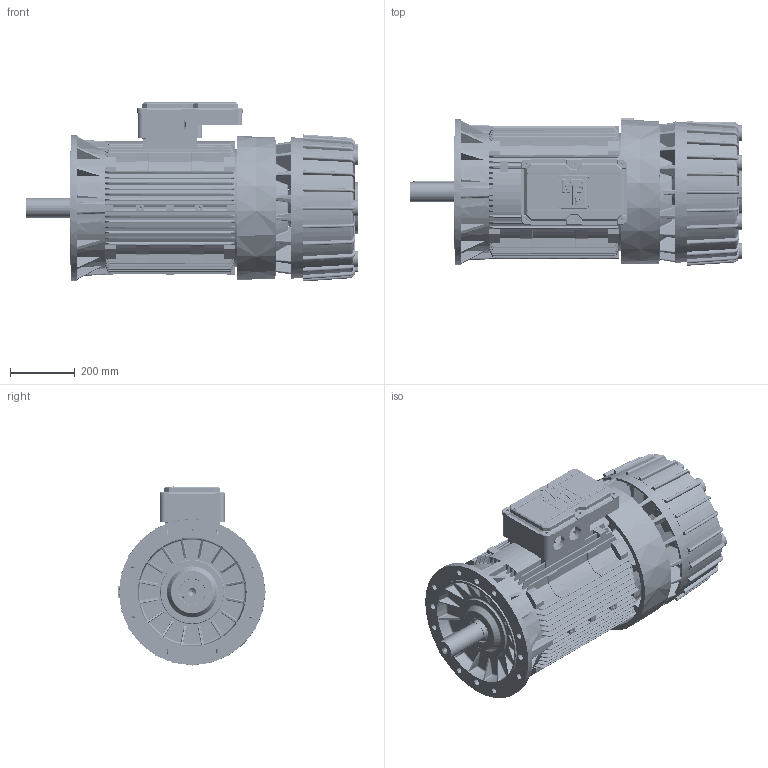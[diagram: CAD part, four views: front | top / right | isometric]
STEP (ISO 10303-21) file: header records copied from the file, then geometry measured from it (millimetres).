
FILE_DESCRIPTION (( 'STEP AP214' ), '1' );
FILE_NAME ('M08OB0012.STEP', '2019-08-01T16:13:48', ( '' ), ( '' ), 'SwSTEP 2.0', 'SolidWorks 2018', '' );
FILE_SCHEMA (( 'AUTOMOTIVE_DESIGN' ));
Length unit declared in the file: millimetre
Products named in the file (12): Scudo a Flangia B5 BA 225 - D7BD0003; Carcassa 225 M B5; M08OB0012; Cuffia serie BAH 225 - DA CODIFICARE; Convogliatore BAH 225_lavorato; Scudo Lato Freno P1 BAH 225 - D7DR0113; Scatola Morsettiera 225-250 -280 - Completa; Guarnizioni Scatola Morsettiera 225-250-280 - D7C40109; Coperchio Scatola Morsettiera 225-250 - 280 - D7C20109; Scatola Morsettiera 225-250 -280 - D7C10209; Albero BA 225 M; Chiavetta 225 4-6-8p
Assembly tree (11 placements, depth 3):
  M08OB0012
    Carcassa 225 M B5
    Scudo a Flangia B5 BA 225 - D7BD0003
    Chiavetta 225 4-6-8p
    Albero BA 225 M
    Scatola Morsettiera 225-250 -280 - Completa
      Scatola Morsettiera 225-250 -280 - D7C10209
      Coperchio Scatola Morsettiera 225-250 - 280 - D7C20109
      Guarnizioni Scatola Morsettiera 225-250-280 - D7C40109
    Scudo Lato Freno P1 BAH 225 - D7DR0113
    Convogliatore BAH 225_lavorato
    Cuffia serie BAH 225 - DA CODIFICARE
Bounding box: 1025.5 x 455.75 x 553.26 mm (x, y, z)
Volume: 33045420.4 mm3; surface area: 5749695.2 mm2
Topology: 11 solids, 11 shells, 5094 faces, 13049 edges, 7981 vertices
Faces by surface type: bspline 1565, plane 1296, cylinder 1294, torus 488, cone 437, sphere 14
Entity records: 286441 total; most frequent: CARTESIAN_POINT 173849, ORIENTED_EDGE 25942, DIRECTION 19433, EDGE_CURVE 12971, VERTEX_POINT 7981, AXIS2_PLACEMENT_3D 7925, EDGE_LOOP 5332, ADVANCED_FACE 5094
